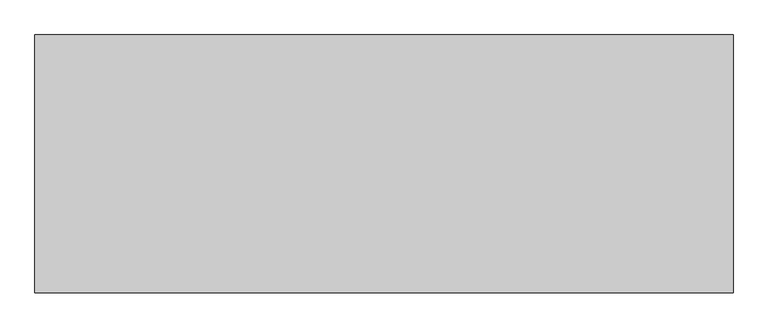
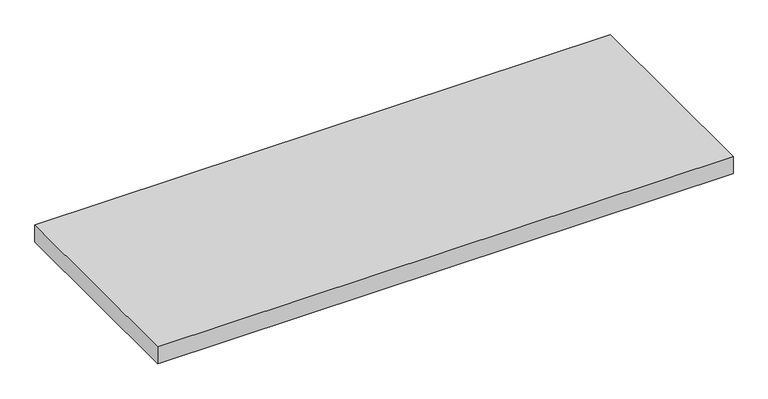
"""IFC4 building model written with IfcOpenShell, lengths in millimetres: proxy geometry, 機械基礎(電気) : 機械基礎(電気)."""

from ifc_helpers import new_model, si_unit, origin, origin_with_axes, place, context, project, spatial, polyline, outline, extrude, source, transform, mapped, element, save


def specialty_equipment_eae59b2d(model_context):
    return source(origin(), model_context, "Body", "SweptSolid", [
        extrude(outline(polyline([(3250.0, -1200.0), (-3250.0, -1200.0), (-3250.0, 1200.0), (3250.0, 1200.0), (3250.0, -1200.0)])), origin_with_axes(), (0.0, 0.0, 1.0), 200.0),
    ])


if __name__ == "__main__":
    model = new_model("IFC4")
    model_context = context("Model", 3, world=origin())
    ifc_project = project(units=[si_unit("LENGTHUNIT", "METRE", prefix="MILLI")], contexts=[model_context])
    site = spatial("IfcSite", under=ifc_project)
    building = spatial("IfcBuilding", under=site)
    placement = place(None, origin())
    specialty_equipment_shape = specialty_equipment_eae59b2d(model_context)
    element("IfcBuildingElementProxy", 1, Name="機械基礎(電気) : 機械基礎(電気)", ObjectType="機械基礎(電気) : 機械基礎(電気)", at=placement, inside=building, context=model_context, shape_type="MappedRepresentation", body=[
        mapped(specialty_equipment_shape, transform((0.0, 0.0, 0.0), x_axis=(1.0, 0.0, 0.0), y_axis=(0.0, 1.0, 0.0), z_axis=(0.0, 0.0, 1.0))),
    ])
    save(model, "model.ifc")
